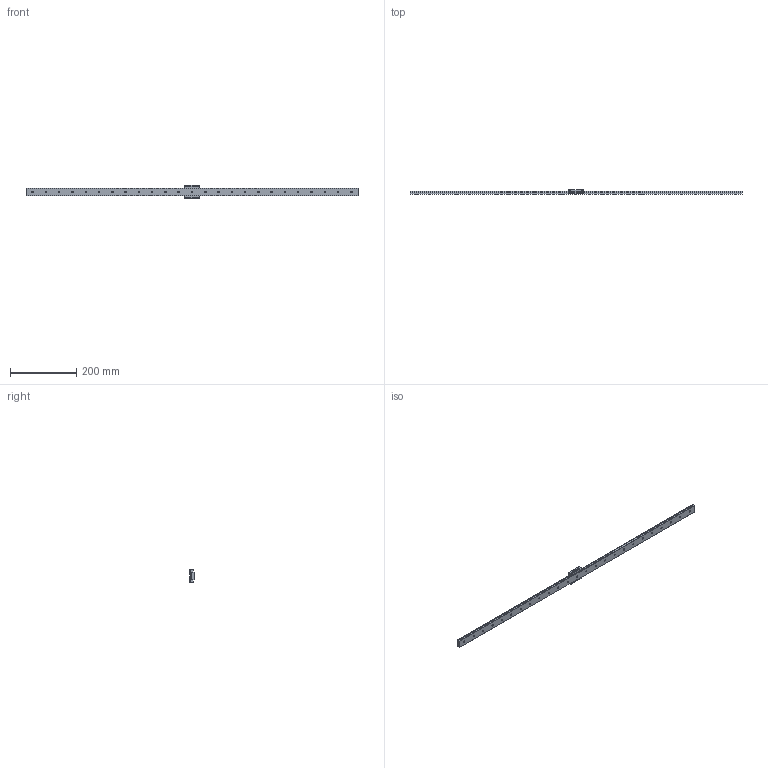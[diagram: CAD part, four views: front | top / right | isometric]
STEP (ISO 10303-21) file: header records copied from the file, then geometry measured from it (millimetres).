
FILE_DESCRIPTION( ( '' ), '1' );
FILE_NAME( 'C:/Users/v3-771-32344/Documents/Website 2016/STEP/SRS12WM1UU1000200477.75000.stp', '2016-11-10T13:12:07', ( '' ), ( '' ), ' ', ' ', ' ' );
FILE_SCHEMA( ( 'CONFIG_CONTROL_DESIGN' ) );
Length unit declared in the file: millimetre
Products named in the file (2): 1; 2
Bounding box: 1000 x 14 x 40 mm (x, y, z)
Volume: 206958.9 mm3; surface area: 74685.8 mm2
Topology: 2 solids, 2 shells, 271 faces, 688 edges, 444 vertices
Faces by surface type: cylinder 146, plane 109, cone 16
Entity records: 8378 total; most frequent: DIRECTION 1526, CARTESIAN_POINT 1397, ORIENTED_EDGE 1360, EDGE_CURVE 680, AXIS2_PLACEMENT_3D 573, VERTEX_POINT 444, LINE 380, VECTOR 380
